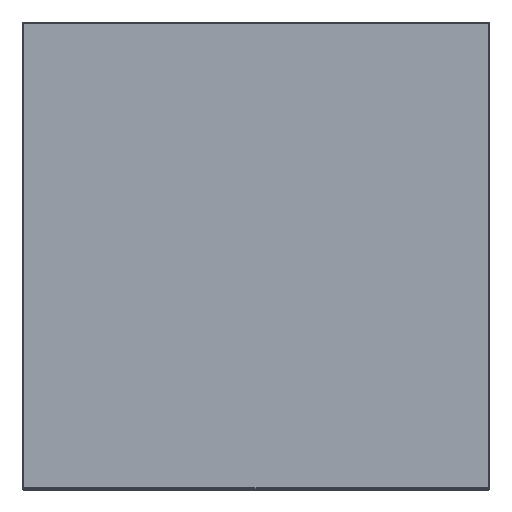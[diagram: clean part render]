
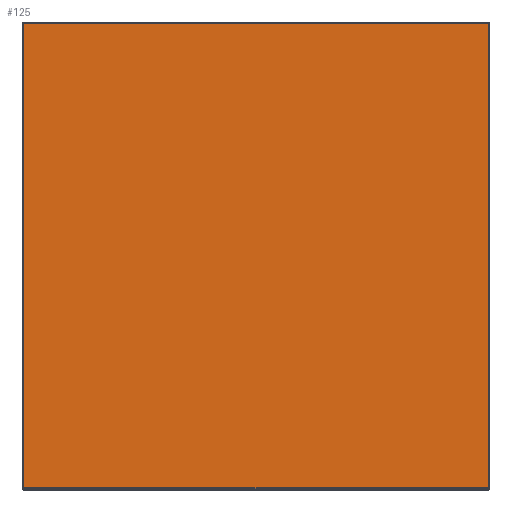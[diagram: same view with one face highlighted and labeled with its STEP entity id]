
A CAD part, top view. The second image highlights one B-rep face of the part: STEP entity #125.
In plain terms, the highlighted planar face has unit normal (0, 0, 1).
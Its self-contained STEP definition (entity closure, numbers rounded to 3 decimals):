
#125=ADVANCED_FACE('',(#687),#7769,.T.);
#687=FACE_OUTER_BOUND('',#1249,.T.);
#1249=EDGE_LOOP('',(#1916,#1917,#1918,#1919));
#1916=ORIENTED_EDGE('',*,*,#4271,.T.);
#1917=ORIENTED_EDGE('',*,*,#4273,.T.);
#1918=ORIENTED_EDGE('',*,*,#4272,.T.);
#1919=ORIENTED_EDGE('',*,*,#4274,.T.);
#4271=EDGE_CURVE('',#6654,#6655,#6389,.T.);
#4272=EDGE_CURVE('',#6656,#6657,#6390,.T.);
#4273=EDGE_CURVE('',#6655,#6656,#6391,.T.);
#4274=EDGE_CURVE('',#6657,#6654,#6392,.T.);
#6389=B_SPLINE_CURVE_WITH_KNOTS('',1,(#8440,#8441),.UNSPECIFIED.,.F.,.F.,
(2,2),(1.,449.),.UNSPECIFIED.);
#6390=B_SPLINE_CURVE_WITH_KNOTS('',1,(#8442,#8443),.UNSPECIFIED.,.F.,.F.,
(2,2),(1.,449.),.UNSPECIFIED.);
#6391=B_SPLINE_CURVE_WITH_KNOTS('',1,(#8444,#8445),.UNSPECIFIED.,.F.,.F.,
(2,2),(1.,449.),.UNSPECIFIED.);
#6392=B_SPLINE_CURVE_WITH_KNOTS('',1,(#8446,#8447),.UNSPECIFIED.,.F.,.F.,
(2,2),(1.,449.),.UNSPECIFIED.);
#6654=VERTEX_POINT('',#8402);
#6655=VERTEX_POINT('',#8403);
#6656=VERTEX_POINT('',#8404);
#6657=VERTEX_POINT('',#8405);
#7769=PLANE('',#7905);
#7905=AXIS2_PLACEMENT_3D('',#8271,#8024,$);
#8024=DIRECTION('',(0.,0.,1.));
#8271=CARTESIAN_POINT('',(0.,0.,650.));
#8402=CARTESIAN_POINT('',(-449.,-1.,650.));
#8403=CARTESIAN_POINT('',(-449.,-449.,650.));
#8404=CARTESIAN_POINT('',(-1.,-449.,650.));
#8405=CARTESIAN_POINT('',(-1.,-1.,650.));
#8440=CARTESIAN_POINT('',(-449.,-1.,650.));
#8441=CARTESIAN_POINT('',(-449.,-449.,650.));
#8442=CARTESIAN_POINT('',(-1.,-449.,650.));
#8443=CARTESIAN_POINT('',(-1.,-1.,650.));
#8444=CARTESIAN_POINT('',(-449.,-449.,650.));
#8445=CARTESIAN_POINT('',(-1.,-449.,650.));
#8446=CARTESIAN_POINT('',(-1.,-1.,650.));
#8447=CARTESIAN_POINT('',(-449.,-1.,650.));
